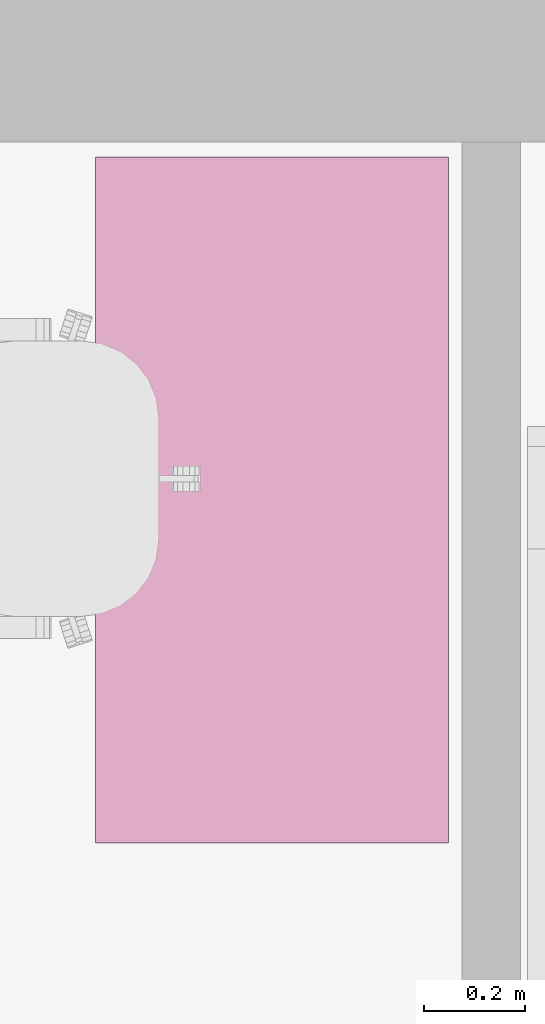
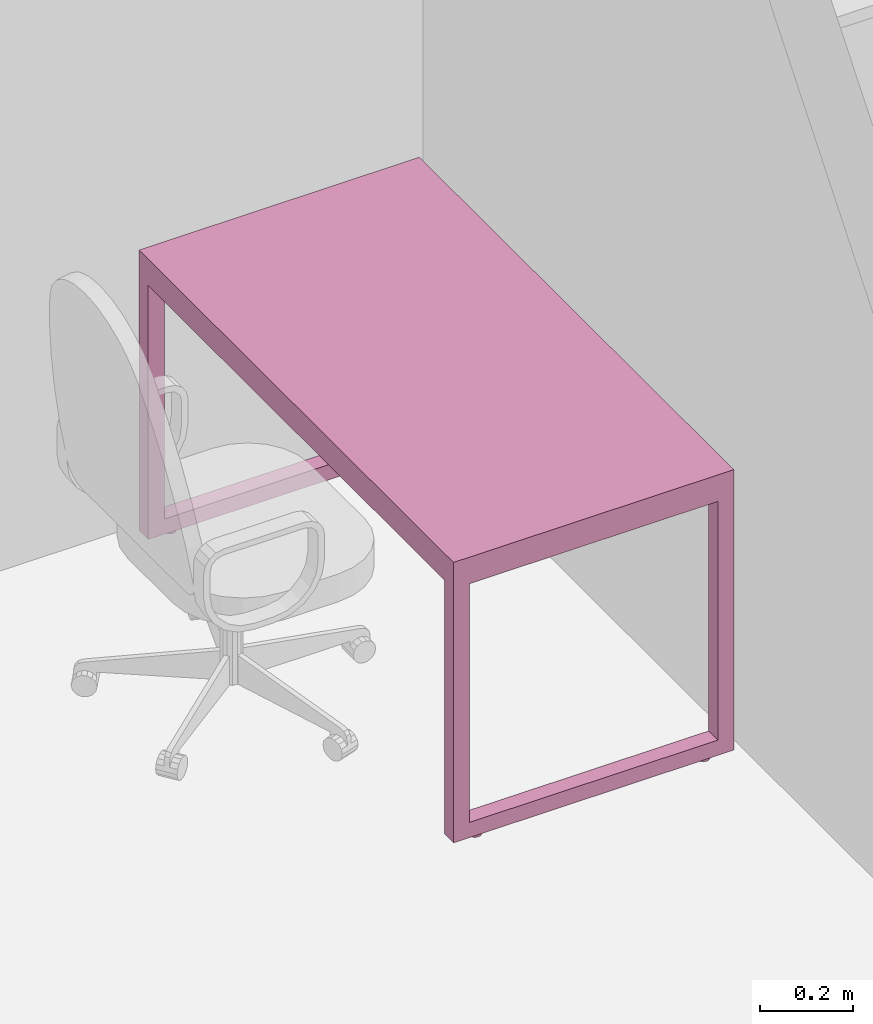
# One storey, part 42 of 46: 1 furnishing.
"""IFC2X3 building model written with IfcOpenShell, lengths in millimetres."""

import ifcopenshell
import ifcopenshell.guid

model = None  # the IFC model being written
_history = None  # IfcOwnerHistory: only IFC2X3 demands one
_inside = {}  # id of a spatial element -> (the spatial element, [elements in it])
_under = {}  # id of a project, library or spatial element -> (it, [spatial elements below it])
_declared = {}  # id of a project -> (the project, [libraries it declares])
_typed = {}  # id of a type object -> (the type object, [elements of that type])
_made_of = {}  # id of a material, layer set ... -> (it, [elements and type objects made of it])


def new_model(schema):
    """Start an empty IFC model of exactly this schema.

    Asked for "IFC4X3", IfcOpenShell would pick the latest addendum, in which some entities
    have other attributes; the version numbers below select the first issue.
    IFC2X3 requires an IfcOwnerHistory on every rooted entity: one is made here for all.
    """
    global model, _history
    if schema == "IFC4X3":
        model = ifcopenshell.file(schema_version=(4, 3, 0, 0))
    else:
        model = ifcopenshell.file(schema=schema)
    _inside.clear()
    _under.clear()
    _declared.clear()
    _typed.clear()
    _made_of.clear()
    _history = None
    if model.schema == "IFC2X3":
        org = make("IfcOrganization", Name="unknown")
        user = make(
            "IfcPersonAndOrganization",
            ThePerson=make("IfcPerson", FamilyName="unknown"),
            TheOrganization=org,
        )
        app = make(
            "IfcApplication",
            ApplicationDeveloper=org,
            Version="unknown",
            ApplicationFullName="unknown",
            ApplicationIdentifier="unknown",
        )
        _history = make(
            "IfcOwnerHistory",
            OwningUser=user,
            OwningApplication=app,
            ChangeAction="ADDED",
            CreationDate=0,
        )
    return model


def make(cls, **values):
    """One entity of the class cls with the attributes given. An attribute that is None is left unset."""
    return model.create_entity(
        cls, **{name: value for name, value in values.items() if value is not None}
    )


def entity(cls, *values):
    """Any entity or typed value of the class cls, its attributes in the order of the schema. None: left unset."""
    e = model.create_entity(cls)
    for i, value in enumerate(values):
        if value is not None:
            e[i] = value
    return e


def rooted(cls, **values):
    """An entity with a GlobalId (a new one), such as an element, a storey or a relation."""
    return make(cls, GlobalId=ifcopenshell.guid.new(), OwnerHistory=_history, **values)


def si_unit(unit_type, name, prefix=None):
    """IfcSIUnit, for example si_unit("LENGTHUNIT", "METRE", prefix="MILLI")."""
    return make("IfcSIUnit", UnitType=unit_type, Prefix=prefix, Name=name)


def converted_unit(unit_type, name, factor, base, dimensions=None, offset=None):
    """IfcConversionBasedUnit, such as the inch: factor (a typed value) times the base unit."""
    return make(
        "IfcConversionBasedUnit"
        if offset is None
        else "IfcConversionBasedUnitWithOffset",
        ConversionOffset=offset,
        Dimensions=None
        if dimensions is None
        else entity("IfcDimensionalExponents", *dimensions),
        UnitType=unit_type,
        Name=name,
        ConversionFactor=make(
            "IfcMeasureWithUnit", ValueComponent=factor, UnitComponent=base
        ),
    )


def derived_unit(unit_type, elements):
    """IfcDerivedUnit: a product of units, each with its exponent."""
    return make(
        "IfcDerivedUnit",
        Elements=[
            make("IfcDerivedUnitElement", Unit=unit, Exponent=power)
            for unit, power in elements
        ],
        UnitType=unit_type,
    )


def assignment(units):
    """IfcUnitAssignment: the units of a project."""
    return None if units is None else make("IfcUnitAssignment", Units=units)


def point(xyz):
    """IfcCartesianPoint."""
    return None if xyz is None else make("IfcCartesianPoint", Coordinates=xyz)


def direction(xyz):
    """IfcDirection."""
    return None if xyz is None else make("IfcDirection", DirectionRatios=xyz)


def frame(location, z_axis=None, x_axis=None):
    """IfcAxis2Placement3D, a coordinate frame: its origin and axes. An axis left out is left unset."""
    return make(
        "IfcAxis2Placement3D",
        Location=point(location),
        Axis=direction(z_axis),
        RefDirection=direction(x_axis),
    )


def origin():
    """The frame at (0, 0, 0) with its axes left unset."""
    return frame((0.0, 0.0, 0.0))


def place(relative_to, where):
    """IfcLocalPlacement: puts the frame where relative to a parent placement (None: the world)."""
    return make(
        "IfcLocalPlacement", PlacementRelTo=relative_to, RelativePlacement=where
    )


def context(
    kind, dimensions, precision=None, world=None, true_north=None, identifier=None
):
    """IfcGeometricRepresentationContext, for example the 3D "Model" context."""
    return make(
        "IfcGeometricRepresentationContext",
        ContextIdentifier=identifier,
        ContextType=kind,
        CoordinateSpaceDimension=dimensions,
        Precision=precision,
        WorldCoordinateSystem=world,
        TrueNorth=true_north,
    )


def subcontext(parent, identifier, kind, view, scale=None):
    """IfcGeometricRepresentationSubContext, for example "Body" below "Model"."""
    return make(
        "IfcGeometricRepresentationSubContext",
        ContextIdentifier=identifier,
        ContextType=kind,
        ParentContext=parent,
        TargetScale=scale,
        TargetView=view,
    )


def project(units=None, contexts=None):
    """IfcProject with its units and contexts."""
    return rooted(
        "IfcProject",
        Name="project",
        RepresentationContexts=contexts,
        UnitsInContext=assignment(units),
    )


def spatial(cls, under=None, at=None, **own):
    """A site, building, storey or space (cls), placed at a placement, below another one or the project."""
    s = rooted(cls, ObjectPlacement=at, **own)
    if under is not None:
        _under.setdefault(under.id(), (under, []))[1].append(s)
    return s


def faces_of(points, faces, orient=None, outer=None):
    """IfcFace entities. A face is a list of loops; a loop is a list of indices into points, from 0.

    orient and outer hold one flag for each loop. By default every Orientation is true, the
    first loop of a face is its IfcFaceOuterBound and the others are IfcFaceBound.
    """
    made = []
    for i, loops in enumerate(faces):
        bounds = []
        for j, loop in enumerate(loops):
            is_outer = j == 0 if outer is None else outer[i][j]
            bounds.append(
                make(
                    "IfcFaceOuterBound" if is_outer else "IfcFaceBound",
                    Bound=make("IfcPolyLoop", Polygon=[points[k] for k in loop]),
                    Orientation=True if orient is None else orient[i][j],
                )
            )
        made.append(make("IfcFace", Bounds=bounds))
    return made


def faceted_brep(points, faces, orient=None, outer=None, voids=None):
    """IfcFacetedBrep: a solid bounded by flat faces; with voids (closed shells), ...WithVoids."""
    shared = [point(p) for p in points]
    hull = make("IfcClosedShell", CfsFaces=faces_of(shared, faces, orient, outer))
    if voids is None:
        return make("IfcFacetedBrep", Outer=hull)
    return make(
        "IfcFacetedBrepWithVoids",
        Outer=hull,
        Voids=[
            make(cls, CfsFaces=faces_of(shared, fs, o, b)) for cls, fs, o, b in voids
        ],
    )


def shape(context_of_items, identifier, shape_type, items):
    """IfcShapeRepresentation: the items that make up one representation, for example the "Body"."""
    return make(
        "IfcShapeRepresentation",
        ContextOfItems=context_of_items,
        RepresentationIdentifier=identifier,
        RepresentationType=shape_type,
        Items=items,
    )


def source(mapping_origin, context_of_items, identifier, shape_type, items):
    """IfcRepresentationMap: a shape defined once, which mapped items show again and again."""
    return make(
        "IfcRepresentationMap",
        MappingOrigin=mapping_origin,
        MappedRepresentation=shape(context_of_items, identifier, shape_type, items),
    )


def transform(
    local_origin,
    x_axis=None,
    y_axis=None,
    z_axis=None,
    scale=None,
    scale2=None,
    scale3=None,
    uniform=True,
):
    """IfcCartesianTransformationOperator3D, or its non-uniform kind. x_axis, y_axis, z_axis: its Axis1, 2, 3."""
    if uniform:
        return make(
            "IfcCartesianTransformationOperator3D",
            Axis1=direction(x_axis),
            Axis2=direction(y_axis),
            LocalOrigin=point(local_origin),
            Scale=scale,
            Axis3=direction(z_axis),
        )
    return make(
        "IfcCartesianTransformationOperator3DnonUniform",
        Axis1=direction(x_axis),
        Axis2=direction(y_axis),
        LocalOrigin=point(local_origin),
        Scale=scale,
        Axis3=direction(z_axis),
        Scale2=scale2,
        Scale3=scale3,
    )


def mapped(mapping_source, mapping_target):
    """IfcMappedItem: shows the shape of a source again, moved by a transform."""
    return make(
        "IfcMappedItem", MappingSource=mapping_source, MappingTarget=mapping_target
    )


def material(Name=None, Category=None):
    """IfcMaterial."""
    return make("IfcMaterial", Name=Name, Category=Category)


def material_list(materials):
    """IfcMaterialList."""
    return make("IfcMaterialList", Materials=materials)


def made_of(thing, what):
    """Note that an element or type object is made of a material, layer set ...; save() writes the relation."""
    if what is not None:
        _made_of.setdefault(what.id(), (what, []))[1].append(thing)
    return thing


def type_object(cls, material=None, **own):
    """A type object (cls), such as IfcWallType, which elements share."""
    return made_of(rooted(cls, **own), material)


def type_shapes(of_type, sources):
    """Give a type object the sources (RepresentationMaps) that its elements show as mapped items."""
    of_type.RepresentationMaps = sources


def element(
    cls,
    number,
    at=None,
    inside=None,
    cuts=None,
    type_object=None,
    material=None,
    context=None,
    identifier="Body",
    shape_type=None,
    held_by="IfcProductDefinitionShape",
    body=None,
    shapes=None,
    **own,
):
    """One element of the class cls, such as IfcWall. Its Tag is "e" and its number.

    at: its placement. inside: the storey or other place that contains it. cuts: it is an
    opening in that element (IfcRelVoidsElement). A single representation is given by context,
    identifier, shape_type and body (its items); several are given by shapes. held_by: the class
    of the entity that holds the representations. save() writes the other relations.
    """
    e = rooted(cls, Tag="e%d" % number, ObjectPlacement=at, **own)
    if body is not None:
        shapes = [shape(context, identifier, shape_type, body)]
    if shapes is not None:
        e.Representation = make(held_by, Representations=shapes)
    if inside is not None:
        _inside.setdefault(inside.id(), (inside, []))[1].append(e)
    if cuts is not None:
        rooted(
            "IfcRelVoidsElement", RelatingBuildingElement=cuts, RelatedOpeningElement=e
        )
    if type_object is not None:
        _typed.setdefault(type_object.id(), (type_object, []))[1].append(e)
    return made_of(e, material)


def aggregate(whole, parts):
    """IfcRelAggregates: a whole, such as a stair, and the parts it consists of."""
    return rooted("IfcRelAggregates", RelatingObject=whole, RelatedObjects=parts)


def save(model, path):
    """Write the relations noted so far, then the file.

    IfcRelAggregates (storeys below a building ...), IfcRelContainedInSpatialStructure (elements
    in a storey), IfcRelDefinesByType, IfcRelAssociatesMaterial and IfcRelDeclares: one each for
    every whole, place, type object, material and project.
    """
    for whole, parts in _under.values():
        aggregate(whole, parts)
    for where, things in _inside.values():
        rooted(
            "IfcRelContainedInSpatialStructure",
            RelatedElements=things,
            RelatingStructure=where,
        )
    for kind, things in _typed.values():
        rooted("IfcRelDefinesByType", RelatedObjects=things, RelatingType=kind)
    for what, things in _made_of.values():
        rooted("IfcRelAssociatesMaterial", RelatedObjects=things, RelatingMaterial=what)
    for by, libraries in _declared.values():
        rooted("IfcRelDeclares", RelatingContext=by, RelatedDefinitions=libraries)
    model.write(path)


model = new_model("IFC2X3")

# Units and contexts
model_context = context("Model", 3, precision=0.01, world=origin(), true_north=direction((6.12303176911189e-17, 1.0)))
body_context = subcontext(model_context, "Body", "Model", "MODEL_VIEW")
ifc_project = project(units=[si_unit("LENGTHUNIT", "METRE", prefix="MILLI"), si_unit("AREAUNIT", "SQUARE_METRE"), si_unit("VOLUMEUNIT", "CUBIC_METRE"), converted_unit("PLANEANGLEUNIT", "DEGREE", entity("IfcRatioMeasure", 0.0174532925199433), si_unit("PLANEANGLEUNIT", "RADIAN"), dimensions=[0, 0, 0, 0, 0, 0, 0]), si_unit("MASSUNIT", "GRAM", prefix="KILO"), derived_unit("MASSDENSITYUNIT", [(si_unit("MASSUNIT", "GRAM", prefix="KILO"), 1), (si_unit("LENGTHUNIT", "METRE"), -3)]), si_unit("TIMEUNIT", "SECOND"), si_unit("FREQUENCYUNIT", "HERTZ"), si_unit("THERMODYNAMICTEMPERATUREUNIT", "DEGREE_CELSIUS"), derived_unit("THERMALTRANSMITTANCEUNIT", [(si_unit("MASSUNIT", "GRAM", prefix="KILO"), 1), (si_unit("THERMODYNAMICTEMPERATUREUNIT", "KELVIN"), -1), (si_unit("TIMEUNIT", "SECOND"), -3)]), derived_unit("VOLUMETRICFLOWRATEUNIT", [(si_unit("LENGTHUNIT", "METRE"), 3), (si_unit("TIMEUNIT", "SECOND"), -1)]), si_unit("ELECTRICCURRENTUNIT", "AMPERE"), si_unit("ELECTRICVOLTAGEUNIT", "VOLT"), si_unit("POWERUNIT", "WATT"), si_unit("FORCEUNIT", "NEWTON", prefix="KILO"), si_unit("ILLUMINANCEUNIT", "LUX"), si_unit("LUMINOUSFLUXUNIT", "LUMEN"), si_unit("LUMINOUSINTENSITYUNIT", "CANDELA"), derived_unit("USERDEFINED", [(si_unit("MASSUNIT", "GRAM", prefix="KILO"), -1), (si_unit("LENGTHUNIT", "METRE"), -2), (si_unit("TIMEUNIT", "SECOND"), 3), (si_unit("LUMINOUSFLUXUNIT", "LUMEN"), 1)]), derived_unit("LINEARVELOCITYUNIT", [(si_unit("LENGTHUNIT", "METRE"), 1), (si_unit("TIMEUNIT", "SECOND"), -1)]), si_unit("PRESSUREUNIT", "PASCAL"), derived_unit("USERDEFINED", [(si_unit("LENGTHUNIT", "METRE"), -2), (si_unit("MASSUNIT", "GRAM", prefix="KILO"), 1), (si_unit("TIMEUNIT", "SECOND"), -2)]), derived_unit("LINEARFORCEUNIT", [(si_unit("MASSUNIT", "GRAM", prefix="KILO"), 1), (si_unit("LENGTHUNIT", "METRE"), 1), (si_unit("TIMEUNIT", "SECOND"), -2), (si_unit("LENGTHUNIT", "METRE"), -1)]), derived_unit("PLANARFORCEUNIT", [(si_unit("MASSUNIT", "GRAM", prefix="KILO"), 1), (si_unit("LENGTHUNIT", "METRE"), 1), (si_unit("TIMEUNIT", "SECOND"), -2), (si_unit("LENGTHUNIT", "METRE"), -2)])], contexts=[model_context])

# Site, building, storey, space
site_placement = place(None, origin())
site = spatial("IfcSite", under=ifc_project, at=site_placement, Name="Default", CompositionType="ELEMENT")
building_placement = place(site_placement, origin())
building = spatial("IfcBuilding", under=site, at=building_placement, Name="SMA ARH", CompositionType="ELEMENT")
storey_placement = place(building_placement, origin())
storey = spatial("IfcBuildingStorey", under=building, at=storey_placement, Name="1 Korrus", CompositionType="ELEMENT", Elevation=0.0)
space_placement = place(storey_placement, origin())
space = spatial("IfcSpace", under=storey, at=space_placement, Name="1-29", CompositionType="ELEMENT", InteriorOrExteriorSpace="INTERNAL")

# Furnishing
ifc_material = material(Name="<Unnamed>")
ifc_material_list = material_list([ifc_material, ifc_material])
furniture_type = type_object("IfcFurnitureType", Name="kirjutuslaud 1360x700mm:kirjutuslaud 1360x700mm", material=ifc_material_list)
shared_shape = source(origin(), body_context, "Body", "Brep", [
    faceted_brep([(680.0, 350.0, 720.0), (680.0, 350.0, 750.0), (680.0, -350.0, 750.0), (680.0, -350.0, 720.0), (-680.0, 350.0, 720.0), (-680.0, -350.0, 720.0), (-680.0, -350.0, 750.0), (-680.0, 350.0, 750.0)], [[[0, 1, 2, 3]], [[4, 5, 6, 7]], [[3, 5, 4, 0]], [[2, 6, 5, 3]], [[1, 7, 6, 2]], [[0, 4, 7, 1]]]),
    faceted_brep([(-640.0, 310.0, 680.0), (-640.0, 310.0, 720.0), (-640.0, -310.0, 720.0), (-640.0, -310.0, 680.0), (-680.0, 350.0, 720.0), (-680.0, 350.0, 10.0), (-680.0, -350.0, 10.0), (-680.0, -350.0, 720.0), (-680.0, -310.0, 680.0), (-680.0, -310.0, 50.0), (-680.0, 310.0, 50.0), (-680.0, 310.0, 680.0), (680.0, 350.0, 720.0), (680.0, 350.0, 10.0), (640.0, 350.0, 10.0), (640.0, 350.0, 680.0), (-640.0, 350.0, 680.0), (-640.0, 350.0, 10.0), (-640.0, -350.0, 10.0), (-640.0, -350.0, 680.0), (640.0, -350.0, 680.0), (640.0, -350.0, 10.0), (680.0, -350.0, 10.0), (680.0, -350.0, 720.0), (640.0, 310.0, 720.0), (640.0, -310.0, 720.0), (-640.0, -310.0, 50.0), (-640.0, 310.0, 50.0), (640.0, -310.0, 680.0), (640.0, 310.0, 680.0), (680.0, -310.0, 680.0), (680.0, 310.0, 680.0), (680.0, 310.0, 50.0), (680.0, -310.0, 50.0), (640.0, -310.0, 50.0), (640.0, 310.0, 50.0)], [[[0, 1, 2, 3]], [[4, 5, 6, 7], [8, 9, 10, 11]], [[4, 12, 13, 14, 15, 16, 17, 5]], [[18, 6, 5, 17]], [[6, 18, 19, 20, 21, 22, 23, 7]], [[2, 1, 24, 25], [23, 12, 4, 7]], [[26, 9, 8, 3]], [[27, 10, 9, 26]], [[0, 11, 10, 27]], [[3, 8, 11, 0]], [[28, 20, 19, 3]], [[25, 28, 3, 2]], [[1, 0, 29, 24]], [[12, 23, 22, 13], [30, 31, 32, 33]], [[21, 20, 28, 34, 35, 29, 15, 14]], [[22, 21, 14, 13]], [[33, 34, 28, 30]], [[32, 35, 34, 33]], [[31, 29, 35, 32]], [[30, 28, 29, 31]], [[28, 25, 24, 29]], [[15, 29, 0, 16]], [[17, 16, 0, 27, 26, 3, 19, 18]]], outer=[[True], [True, False], [True], [True], [True], [False, True], [True], [True], [True], [True], [True], [True], [True], [True, False], [True], [True], [True], [True], [True], [True], [True], [True], [True]]),
    faceted_brep([(-655.964885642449, 270.466136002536, 0.0), (-659.847171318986, 269.955023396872, 0.0), (-663.729456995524, 270.466136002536, 0.0), (-667.347171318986, 271.964642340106, 0.0), (-670.453773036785, 274.348421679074, 0.0), (-672.837552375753, 277.455023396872, 0.0), (-674.336058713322, 281.072737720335, 0.0), (-674.847171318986, 284.955023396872, 0.0), (-674.336058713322, 288.83730907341, 0.0), (-672.837552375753, 292.455023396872, 0.0), (-670.453773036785, 295.561625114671, 0.0), (-667.347171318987, 297.945404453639, 0.0), (-663.729456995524, 299.443910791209, 0.0), (-659.847171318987, 299.955023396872, 0.0), (-655.964885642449, 299.443910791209, 0.0), (-652.347171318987, 297.945404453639, 0.0), (-649.240569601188, 295.561625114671, 0.0), (-646.85679026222, 292.455023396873, 0.0), (-645.35828392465, 288.83730907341, 0.0), (-644.847171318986, 284.955023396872, 0.0), (-645.35828392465, 281.072737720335, 0.0), (-646.85679026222, 277.455023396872, 0.0), (-649.240569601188, 274.348421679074, 0.0), (-652.347171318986, 271.964642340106, 0.0), (-649.240569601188, 295.561625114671, 10.0), (-652.347171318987, 297.945404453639, 10.0), (-655.964885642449, 299.443910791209, 10.0), (-659.847171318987, 299.955023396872, 10.0), (-663.729456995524, 299.443910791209, 10.0), (-667.347171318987, 297.945404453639, 10.0), (-670.453773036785, 295.561625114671, 10.0), (-672.837552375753, 292.455023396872, 10.0), (-674.336058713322, 288.83730907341, 10.0), (-674.847171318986, 284.955023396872, 10.0), (-674.336058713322, 281.072737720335, 10.0), (-672.837552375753, 277.455023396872, 10.0), (-670.453773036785, 274.348421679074, 10.0), (-667.347171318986, 271.964642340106, 10.0), (-663.729456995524, 270.466136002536, 10.0), (-659.847171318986, 269.955023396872, 10.0), (-655.964885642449, 270.466136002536, 10.0), (-652.347171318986, 271.964642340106, 10.0), (-649.240569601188, 274.348421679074, 10.0), (-646.85679026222, 277.455023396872, 10.0), (-645.35828392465, 281.072737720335, 10.0), (-644.847171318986, 284.955023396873, 10.0), (-645.35828392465, 288.83730907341, 10.0), (-646.85679026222, 292.455023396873, 10.0)], [[[0, 1, 2, 3, 4, 5, 6, 7, 8, 9, 10, 11, 12, 13, 14, 15, 16, 17, 18, 19, 20, 21, 22, 23]], [[24, 25, 26, 27, 28, 29, 30, 31, 32, 33, 34, 35, 36, 37, 38, 39, 40, 41, 42, 43, 44, 45, 46, 47]], [[7, 33, 32, 8]], [[8, 32, 31, 9]], [[11, 10, 30, 29]], [[30, 10, 9, 31]], [[12, 11, 29, 28]], [[12, 28, 27, 13]], [[13, 27, 26, 14]], [[14, 26, 25, 15]], [[17, 16, 24, 47]], [[24, 16, 15, 25]], [[18, 17, 47, 46]], [[18, 46, 45, 19]], [[19, 45, 44, 20]], [[20, 44, 43, 21]], [[23, 22, 42, 41]], [[42, 22, 21, 43]], [[0, 23, 41, 40]], [[0, 40, 39, 1]], [[1, 39, 38, 2]], [[2, 38, 37, 3]], [[5, 4, 36, 35]], [[36, 4, 3, 37]], [[6, 5, 35, 34]], [[6, 34, 33, 7]]]),
    faceted_brep([(-649.240569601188, -274.348421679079, 10.0), (-652.347171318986, -271.964642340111, 10.0), (-655.964885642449, -270.466136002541, 10.0), (-659.847171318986, -269.955023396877, 10.0), (-663.729456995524, -270.466136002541, 10.0), (-667.347171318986, -271.964642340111, 10.0), (-670.453773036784, -274.348421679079, 10.0), (-672.837552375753, -277.455023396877, 10.0), (-674.336058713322, -281.07273772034, 10.0), (-674.847171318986, -284.955023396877, 10.0), (-674.336058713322, -288.837309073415, 10.0), (-672.837552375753, -292.455023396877, 10.0), (-670.453773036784, -295.561625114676, 10.0), (-667.347171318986, -297.945404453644, 10.0), (-663.729456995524, -299.443910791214, 10.0), (-659.847171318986, -299.955023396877, 10.0), (-655.964885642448, -299.443910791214, 10.0), (-652.347171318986, -297.945404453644, 10.0), (-649.240569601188, -295.561625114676, 10.0), (-646.85679026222, -292.455023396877, 10.0), (-645.35828392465, -288.837309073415, 10.0), (-644.847171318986, -284.955023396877, 10.0), (-645.35828392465, -281.07273772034, 10.0), (-646.85679026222, -277.455023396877, 10.0), (-659.847171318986, -299.955023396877, 0.0), (-663.729456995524, -299.443910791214, 0.0), (-667.347171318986, -297.945404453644, 0.0), (-670.453773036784, -295.561625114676, 0.0), (-672.837552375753, -292.455023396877, 0.0), (-674.336058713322, -288.837309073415, 0.0), (-674.847171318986, -284.955023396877, 0.0), (-674.336058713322, -281.07273772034, 0.0), (-672.837552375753, -277.455023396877, 0.0), (-670.453773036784, -274.348421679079, 0.0), (-667.347171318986, -271.964642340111, 0.0), (-663.729456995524, -270.466136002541, 0.0), (-659.847171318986, -269.955023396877, 0.0), (-655.964885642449, -270.466136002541, 0.0), (-652.347171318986, -271.964642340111, 0.0), (-649.240569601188, -274.348421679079, 0.0), (-646.85679026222, -277.455023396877, 0.0), (-645.35828392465, -281.07273772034, 0.0), (-644.847171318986, -284.955023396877, 0.0), (-645.35828392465, -288.837309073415, 0.0), (-646.85679026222, -292.455023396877, 0.0), (-649.240569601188, -295.561625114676, 0.0), (-652.347171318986, -297.945404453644, 0.0), (-655.964885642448, -299.443910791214, 0.0)], [[[0, 1, 2, 3, 4, 5, 6, 7, 8, 9, 10, 11, 12, 13, 14, 15, 16, 17, 18, 19, 20, 21, 22, 23]], [[24, 25, 26, 27, 28, 29, 30, 31, 32, 33, 34, 35, 36, 37, 38, 39, 40, 41, 42, 43, 44, 45, 46, 47]], [[30, 9, 8, 31]], [[31, 8, 7, 32]], [[34, 33, 6, 5]], [[6, 33, 32, 7]], [[35, 34, 5, 4]], [[35, 4, 3, 36]], [[36, 3, 2, 37]], [[37, 2, 1, 38]], [[40, 39, 0, 23]], [[0, 39, 38, 1]], [[41, 40, 23, 22]], [[41, 22, 21, 42]], [[42, 21, 20, 43]], [[43, 20, 19, 44]], [[46, 45, 18, 17]], [[18, 45, 44, 19]], [[47, 46, 17, 16]], [[47, 16, 15, 24]], [[24, 15, 14, 25]], [[25, 14, 13, 26]], [[28, 27, 12, 11]], [[12, 27, 26, 13]], [[29, 28, 11, 10]], [[29, 10, 9, 30]]]),
    faceted_brep([(664.035114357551, 270.466136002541, 0.0), (660.152828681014, 269.955023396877, 0.0), (656.270543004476, 270.466136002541, 0.0), (652.652828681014, 271.96464234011, 0.0), (649.546226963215, 274.348421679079, 0.0), (647.162447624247, 277.455023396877, 0.0), (645.663941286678, 281.072737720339, 0.0), (645.152828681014, 284.955023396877, 0.0), (645.663941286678, 288.837309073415, 0.0), (647.162447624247, 292.455023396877, 0.0), (649.546226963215, 295.561625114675, 0.0), (652.652828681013, 297.945404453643, 0.0), (656.270543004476, 299.443910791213, 0.0), (660.152828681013, 299.955023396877, 0.0), (664.035114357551, 299.443910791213, 0.0), (667.652828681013, 297.945404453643, 0.0), (670.759430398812, 295.561625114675, 0.0), (673.14320973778, 292.455023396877, 0.0), (674.64171607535, 288.837309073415, 0.0), (675.152828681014, 284.955023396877, 0.0), (674.64171607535, 281.072737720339, 0.0), (673.14320973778, 277.455023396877, 0.0), (670.759430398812, 274.348421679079, 0.0), (667.652828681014, 271.96464234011, 0.0), (670.759430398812, 295.561625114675, 10.0), (667.652828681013, 297.945404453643, 10.0), (664.035114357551, 299.443910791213, 10.0), (660.152828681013, 299.955023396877, 10.0), (656.270543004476, 299.443910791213, 10.0), (652.652828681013, 297.945404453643, 10.0), (649.546226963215, 295.561625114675, 10.0), (647.162447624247, 292.455023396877, 10.0), (645.663941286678, 288.837309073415, 10.0), (645.152828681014, 284.955023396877, 10.0), (645.663941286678, 281.072737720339, 10.0), (647.162447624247, 277.455023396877, 10.0), (649.546226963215, 274.348421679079, 10.0), (652.652828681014, 271.96464234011, 10.0), (656.270543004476, 270.466136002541, 10.0), (660.152828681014, 269.955023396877, 10.0), (664.035114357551, 270.466136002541, 10.0), (667.652828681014, 271.96464234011, 10.0), (670.759430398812, 274.348421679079, 10.0), (673.14320973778, 277.455023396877, 10.0), (674.64171607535, 281.072737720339, 10.0), (675.152828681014, 284.955023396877, 10.0), (674.64171607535, 288.837309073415, 10.0), (673.14320973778, 292.455023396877, 10.0)], [[[0, 1, 2, 3, 4, 5, 6, 7, 8, 9, 10, 11, 12, 13, 14, 15, 16, 17, 18, 19, 20, 21, 22, 23]], [[24, 25, 26, 27, 28, 29, 30, 31, 32, 33, 34, 35, 36, 37, 38, 39, 40, 41, 42, 43, 44, 45, 46, 47]], [[7, 33, 32, 8]], [[8, 32, 31, 9]], [[11, 10, 30, 29]], [[30, 10, 9, 31]], [[12, 11, 29, 28]], [[12, 28, 27, 13]], [[13, 27, 26, 14]], [[14, 26, 25, 15]], [[17, 16, 24, 47]], [[24, 16, 15, 25]], [[18, 17, 47, 46]], [[18, 46, 45, 19]], [[19, 45, 44, 20]], [[20, 44, 43, 21]], [[23, 22, 42, 41]], [[42, 22, 21, 43]], [[0, 23, 41, 40]], [[0, 40, 39, 1]], [[1, 39, 38, 2]], [[2, 38, 37, 3]], [[5, 4, 36, 35]], [[36, 4, 3, 37]], [[6, 5, 35, 34]], [[6, 34, 33, 7]]]),
    faceted_brep([(670.759430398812, -274.348421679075, 10.0), (667.652828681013, -271.964642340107, 10.0), (664.035114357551, -270.466136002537, 10.0), (660.152828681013, -269.955023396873, 10.0), (656.270543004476, -270.466136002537, 10.0), (652.652828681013, -271.964642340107, 10.0), (649.546226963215, -274.348421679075, 10.0), (647.162447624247, -277.455023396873, 10.0), (645.663941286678, -281.072737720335, 10.0), (645.152828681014, -284.955023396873, 10.0), (645.663941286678, -288.837309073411, 10.0), (647.162447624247, -292.455023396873, 10.0), (649.546226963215, -295.561625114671, 10.0), (652.652828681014, -297.94540445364, 10.0), (656.270543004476, -299.443910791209, 10.0), (660.152828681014, -299.955023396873, 10.0), (664.035114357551, -299.443910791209, 10.0), (667.652828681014, -297.94540445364, 10.0), (670.759430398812, -295.561625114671, 10.0), (673.14320973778, -292.455023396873, 10.0), (674.64171607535, -288.837309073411, 10.0), (675.152828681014, -284.955023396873, 10.0), (674.64171607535, -281.072737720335, 10.0), (673.14320973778, -277.455023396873, 10.0), (660.152828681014, -299.955023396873, 0.0), (656.270543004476, -299.443910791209, 0.0), (652.652828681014, -297.94540445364, 0.0), (649.546226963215, -295.561625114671, 0.0), (647.162447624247, -292.455023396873, 0.0), (645.663941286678, -288.837309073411, 0.0), (645.152828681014, -284.955023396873, 0.0), (645.663941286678, -281.072737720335, 0.0), (647.162447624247, -277.455023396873, 0.0), (649.546226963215, -274.348421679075, 0.0), (652.652828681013, -271.964642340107, 0.0), (656.270543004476, -270.466136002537, 0.0), (660.152828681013, -269.955023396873, 0.0), (664.035114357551, -270.466136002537, 0.0), (667.652828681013, -271.964642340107, 0.0), (670.759430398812, -274.348421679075, 0.0), (673.14320973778, -277.455023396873, 0.0), (674.64171607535, -281.072737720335, 0.0), (675.152828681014, -284.955023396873, 0.0), (674.64171607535, -288.837309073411, 0.0), (673.14320973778, -292.455023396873, 0.0), (670.759430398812, -295.561625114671, 0.0), (667.652828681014, -297.94540445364, 0.0), (664.035114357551, -299.443910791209, 0.0)], [[[0, 1, 2, 3, 4, 5, 6, 7, 8, 9, 10, 11, 12, 13, 14, 15, 16, 17, 18, 19, 20, 21, 22, 23]], [[24, 25, 26, 27, 28, 29, 30, 31, 32, 33, 34, 35, 36, 37, 38, 39, 40, 41, 42, 43, 44, 45, 46, 47]], [[30, 9, 8, 31]], [[31, 8, 7, 32]], [[34, 33, 6, 5]], [[6, 33, 32, 7]], [[35, 34, 5, 4]], [[35, 4, 3, 36]], [[36, 3, 2, 37]], [[37, 2, 1, 38]], [[40, 39, 0, 23]], [[0, 39, 38, 1]], [[41, 40, 23, 22]], [[41, 22, 21, 42]], [[42, 21, 20, 43]], [[43, 20, 19, 44]], [[46, 45, 18, 17]], [[18, 45, 44, 19]], [[47, 46, 17, 16]], [[47, 16, 15, 24]], [[24, 15, 14, 25]], [[25, 14, 13, 26]], [[28, 27, 12, 11]], [[12, 27, 26, 13]], [[29, 28, 11, 10]], [[29, 10, 9, 30]]]),
])
type_shapes(furniture_type, [shared_shape])
furnishing_placement = place(space_placement, frame((27267.0, 11790.0, 0.0), z_axis=(0.0, 0.0, 1.0), x_axis=(0.0, 1.0, 0.0)))
element("IfcFurnishingElement", 1, at=furnishing_placement, inside=space, type_object=furniture_type, Name="kirjutuslaud 1360x700mm:kirjutuslaud 1360x700mm", ObjectType="kirjutuslaud 1360x700mm:kirjutuslaud 1360x700mm", context=body_context, shape_type="MappedRepresentation", body=[
    mapped(shared_shape, transform((0.0, 0.0, 0.0), scale=1.0)),
])

save(model, "model.ifc")
